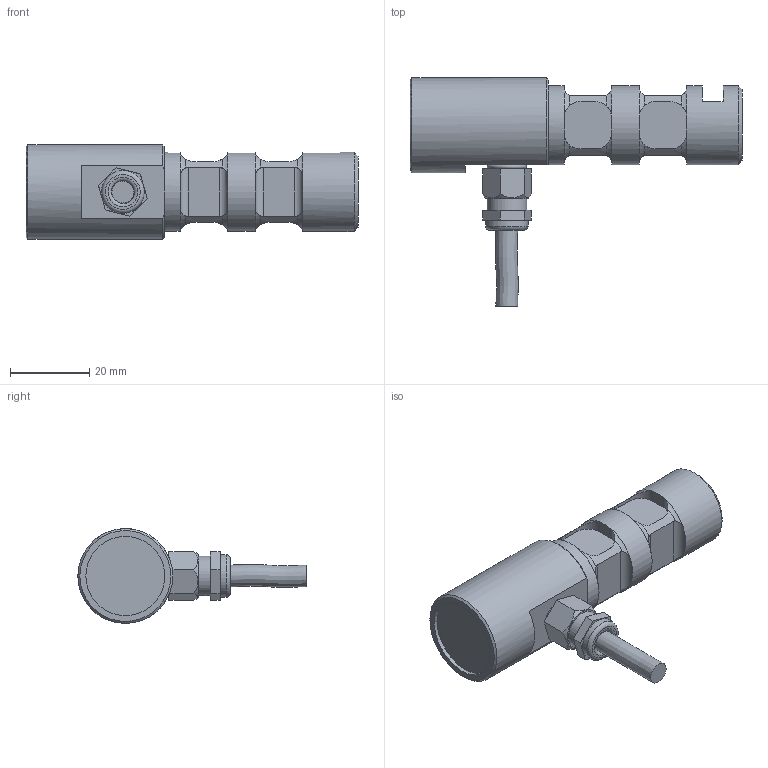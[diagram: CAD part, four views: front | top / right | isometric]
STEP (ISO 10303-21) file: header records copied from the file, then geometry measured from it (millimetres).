
FILE_DESCRIPTION(/* description */ ('Alibre Inc.'),/* implementation_level */ '2;1');
FILE_NAME(/* name */ 'export-54788B14-4CAE-4326-A0EB-570DBA30A77B',/* time_stamp */ '2023-09-05T11:58:58+02:00',/* author */ (''),/* organization */ (''),/* preprocessor_version */ 'ST-DEVELOPER v17',/* originating_system */ 'Alibre',/* authorisation */ '');
FILE_SCHEMA (('CONFIG_CONTROL_DESIGN'));
Length unit declared in the file: centimetre
Bounding box: 84 x 57.73 x 24 mm (x, y, z)
Volume: 29120.3 mm3; surface area: 8882.5 mm2
Topology: 4 solids, 4 shells, 130 faces, 309 edges, 192 vertices
Faces by surface type: plane 62, cylinder 42, torus 19, cone 6, bspline 1
Full cylindrical faces by diameter (mm): 5.5 x1, 7 x1, 8 x1, 10 x1, 10.8 x1, 20 x4, 24 x1
Entity records: 4448 total; most frequent: CARTESIAN_POINT 1352, ORIENTED_EDGE 570, DIRECTION 388, EDGE_CURVE 285, VERTEX_POINT 187, AXIS2_PLACEMENT_3D 166, FACE_BOUND 156, EDGE_LOOP 155
